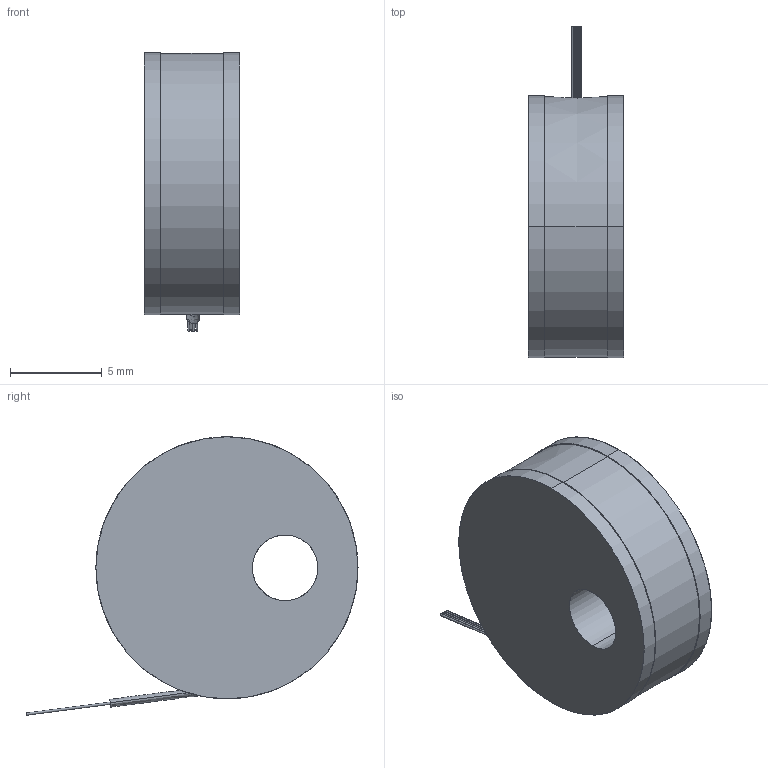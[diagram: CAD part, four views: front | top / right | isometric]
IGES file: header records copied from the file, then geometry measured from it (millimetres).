
Start section: SolidWorks IGES file using analytic representation for surfaces
Global section: file name: C:\Users\austin.mayabb\OneDrive - Lake Shore Cryotronics\SolidWorks Project\Defeatured Parts\Rox Final Defeatures\RX-CD\RX-CD.IGS; native system: SolidWorks 2020; preprocessor: SolidWorks 2020; author: austin.mayabb; date: 200511.113429; units: millimetre
Bounding box: 5.21 x 18.11 x 15.19 mm (x, y, z)
Surface area: 611 mm2 (no closed solid volume)
Topology: 0 solids, 0 shells, 27 faces, 507 edges, 507 vertices
Faces by surface type: revolution 16, bspline 11
